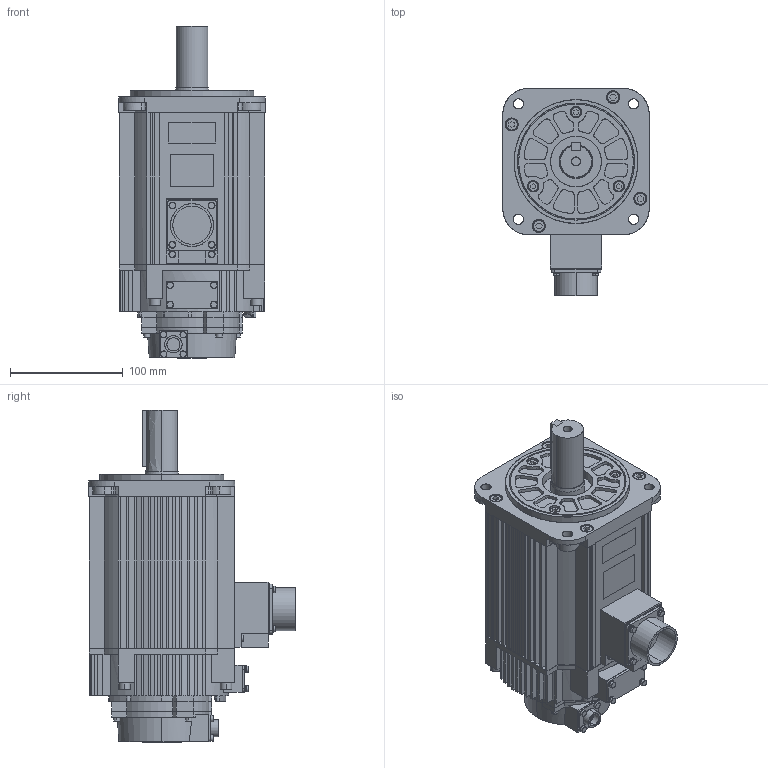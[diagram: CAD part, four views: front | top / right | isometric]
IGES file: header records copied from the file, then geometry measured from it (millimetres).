
Start section: SolidWorks IGES file using analytic representation for surfaces
Global section: file name: D:\YASKAWA\sgmsv_30a_a6c.IGS; native system: SolidWorks 2006 by SolidWorks Corporation; preprocessor: SolidWorks 2006 by SolidWorks Corporation; author: yamanouchi; date: 110320.204744; units: millimetre
Bounding box: 130 x 183.82 x 295.1 mm (x, y, z)
Surface area: 230233.5 mm2 (no closed solid volume)
Topology: 0 solids, 0 shells, 1208 faces, 14048 edges, 14045 vertices
Faces by surface type: bspline 774, revolution 434
